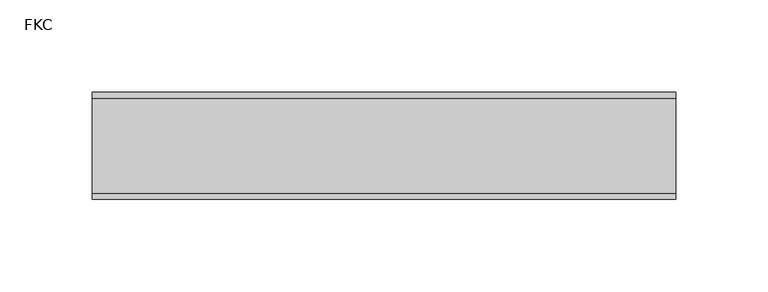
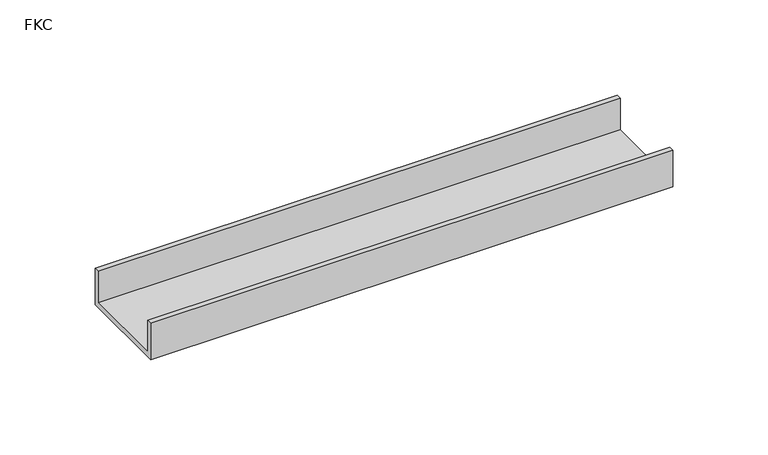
"""IFC4 building model written with IfcOpenShell, lengths in millimetres: proxy geometry, Frame-Teknion-Altos-Base_Channel : FKC."""

import ifcopenshell
import ifcopenshell.guid

model = None  # the IFC model being written
_history = None  # IfcOwnerHistory: only IFC2X3 demands one
_inside = {}  # id of a spatial element -> (the spatial element, [elements in it])
_under = {}  # id of a project, library or spatial element -> (it, [spatial elements below it])
_declared = {}  # id of a project -> (the project, [libraries it declares])
_typed = {}  # id of a type object -> (the type object, [elements of that type])
_made_of = {}  # id of a material, layer set ... -> (it, [elements and type objects made of it])


def new_model(schema):
    """Start an empty IFC model of exactly this schema.

    Asked for "IFC4X3", IfcOpenShell would pick the latest addendum, in which some entities
    have other attributes; the version numbers below select the first issue.
    IFC2X3 requires an IfcOwnerHistory on every rooted entity: one is made here for all.
    """
    global model, _history
    if schema == "IFC4X3":
        model = ifcopenshell.file(schema_version=(4, 3, 0, 0))
    else:
        model = ifcopenshell.file(schema=schema)
    _inside.clear()
    _under.clear()
    _declared.clear()
    _typed.clear()
    _made_of.clear()
    _history = None
    if model.schema == "IFC2X3":
        org = make("IfcOrganization", Name="unknown")
        user = make(
            "IfcPersonAndOrganization",
            ThePerson=make("IfcPerson", FamilyName="unknown"),
            TheOrganization=org,
        )
        app = make(
            "IfcApplication",
            ApplicationDeveloper=org,
            Version="unknown",
            ApplicationFullName="unknown",
            ApplicationIdentifier="unknown",
        )
        _history = make(
            "IfcOwnerHistory",
            OwningUser=user,
            OwningApplication=app,
            ChangeAction="ADDED",
            CreationDate=0,
        )
    return model


def make(cls, **values):
    """One entity of the class cls with the attributes given. An attribute that is None is left unset."""
    return model.create_entity(
        cls, **{name: value for name, value in values.items() if value is not None}
    )


def rooted(cls, **values):
    """An entity with a GlobalId (a new one), such as an element, a storey or a relation."""
    return make(cls, GlobalId=ifcopenshell.guid.new(), OwnerHistory=_history, **values)


def si_unit(unit_type, name, prefix=None):
    """IfcSIUnit, for example si_unit("LENGTHUNIT", "METRE", prefix="MILLI")."""
    return make("IfcSIUnit", UnitType=unit_type, Prefix=prefix, Name=name)


def assignment(units):
    """IfcUnitAssignment: the units of a project."""
    return None if units is None else make("IfcUnitAssignment", Units=units)


def point(xyz):
    """IfcCartesianPoint."""
    return None if xyz is None else make("IfcCartesianPoint", Coordinates=xyz)


def direction(xyz):
    """IfcDirection."""
    return None if xyz is None else make("IfcDirection", DirectionRatios=xyz)


def frame(location, z_axis=None, x_axis=None):
    """IfcAxis2Placement3D, a coordinate frame: its origin and axes. An axis left out is left unset."""
    return make(
        "IfcAxis2Placement3D",
        Location=point(location),
        Axis=direction(z_axis),
        RefDirection=direction(x_axis),
    )


def origin():
    """The frame at (0, 0, 0) with its axes left unset."""
    return frame((0.0, 0.0, 0.0))


def place(relative_to, where):
    """IfcLocalPlacement: puts the frame where relative to a parent placement (None: the world)."""
    return make(
        "IfcLocalPlacement", PlacementRelTo=relative_to, RelativePlacement=where
    )


def context(
    kind, dimensions, precision=None, world=None, true_north=None, identifier=None
):
    """IfcGeometricRepresentationContext, for example the 3D "Model" context."""
    return make(
        "IfcGeometricRepresentationContext",
        ContextIdentifier=identifier,
        ContextType=kind,
        CoordinateSpaceDimension=dimensions,
        Precision=precision,
        WorldCoordinateSystem=world,
        TrueNorth=true_north,
    )


def project(units=None, contexts=None):
    """IfcProject with its units and contexts."""
    return rooted(
        "IfcProject",
        Name="project",
        RepresentationContexts=contexts,
        UnitsInContext=assignment(units),
    )


def spatial(cls, under=None, at=None, **own):
    """A site, building, storey or space (cls), placed at a placement, below another one or the project."""
    s = rooted(cls, ObjectPlacement=at, **own)
    if under is not None:
        _under.setdefault(under.id(), (under, []))[1].append(s)
    return s


def polyline(points):
    """IfcPolyline through the points."""
    return make("IfcPolyline", Points=[point(p) for p in points])


def outline(outer, holes=None, kind="AREA"):
    """IfcArbitraryClosedProfileDef: a profile drawn as a closed curve; with holes, ...WithVoids."""
    if holes is None:
        return make("IfcArbitraryClosedProfileDef", ProfileType=kind, OuterCurve=outer)
    return make(
        "IfcArbitraryProfileDefWithVoids",
        ProfileType=kind,
        OuterCurve=outer,
        InnerCurves=holes,
    )


def extrude(swept, where, along, depth):
    """IfcExtrudedAreaSolid: the profile swept, set in the frame where, extruded along a direction by depth."""
    return make(
        "IfcExtrudedAreaSolid",
        SweptArea=swept,
        Position=where,
        ExtrudedDirection=direction(along),
        Depth=depth,
    )


def shape(context_of_items, identifier, shape_type, items):
    """IfcShapeRepresentation: the items that make up one representation, for example the "Body"."""
    return make(
        "IfcShapeRepresentation",
        ContextOfItems=context_of_items,
        RepresentationIdentifier=identifier,
        RepresentationType=shape_type,
        Items=items,
    )


def source(mapping_origin, context_of_items, identifier, shape_type, items):
    """IfcRepresentationMap: a shape defined once, which mapped items show again and again."""
    return make(
        "IfcRepresentationMap",
        MappingOrigin=mapping_origin,
        MappedRepresentation=shape(context_of_items, identifier, shape_type, items),
    )


def transform(
    local_origin,
    x_axis=None,
    y_axis=None,
    z_axis=None,
    scale=None,
    scale2=None,
    scale3=None,
    uniform=True,
):
    """IfcCartesianTransformationOperator3D, or its non-uniform kind. x_axis, y_axis, z_axis: its Axis1, 2, 3."""
    if uniform:
        return make(
            "IfcCartesianTransformationOperator3D",
            Axis1=direction(x_axis),
            Axis2=direction(y_axis),
            LocalOrigin=point(local_origin),
            Scale=scale,
            Axis3=direction(z_axis),
        )
    return make(
        "IfcCartesianTransformationOperator3DnonUniform",
        Axis1=direction(x_axis),
        Axis2=direction(y_axis),
        LocalOrigin=point(local_origin),
        Scale=scale,
        Axis3=direction(z_axis),
        Scale2=scale2,
        Scale3=scale3,
    )


def mapped(mapping_source, mapping_target):
    """IfcMappedItem: shows the shape of a source again, moved by a transform."""
    return make(
        "IfcMappedItem", MappingSource=mapping_source, MappingTarget=mapping_target
    )


def made_of(thing, what):
    """Note that an element or type object is made of a material, layer set ...; save() writes the relation."""
    if what is not None:
        _made_of.setdefault(what.id(), (what, []))[1].append(thing)
    return thing


def element(
    cls,
    number,
    at=None,
    inside=None,
    cuts=None,
    type_object=None,
    material=None,
    context=None,
    identifier="Body",
    shape_type=None,
    held_by="IfcProductDefinitionShape",
    body=None,
    shapes=None,
    **own,
):
    """One element of the class cls, such as IfcWall. Its Tag is "e" and its number.

    at: its placement. inside: the storey or other place that contains it. cuts: it is an
    opening in that element (IfcRelVoidsElement). A single representation is given by context,
    identifier, shape_type and body (its items); several are given by shapes. held_by: the class
    of the entity that holds the representations. save() writes the other relations.
    """
    e = rooted(cls, Tag="e%d" % number, ObjectPlacement=at, **own)
    if body is not None:
        shapes = [shape(context, identifier, shape_type, body)]
    if shapes is not None:
        e.Representation = make(held_by, Representations=shapes)
    if inside is not None:
        _inside.setdefault(inside.id(), (inside, []))[1].append(e)
    if cuts is not None:
        rooted(
            "IfcRelVoidsElement", RelatingBuildingElement=cuts, RelatedOpeningElement=e
        )
    if type_object is not None:
        _typed.setdefault(type_object.id(), (type_object, []))[1].append(e)
    return made_of(e, material)


def aggregate(whole, parts):
    """IfcRelAggregates: a whole, such as a stair, and the parts it consists of."""
    return rooted("IfcRelAggregates", RelatingObject=whole, RelatedObjects=parts)


def save(model, path):
    """Write the relations noted so far, then the file.

    IfcRelAggregates (storeys below a building ...), IfcRelContainedInSpatialStructure (elements
    in a storey), IfcRelDefinesByType, IfcRelAssociatesMaterial and IfcRelDeclares: one each for
    every whole, place, type object, material and project.
    """
    for whole, parts in _under.values():
        aggregate(whole, parts)
    for where, things in _inside.values():
        rooted(
            "IfcRelContainedInSpatialStructure",
            RelatedElements=things,
            RelatingStructure=where,
        )
    for kind, things in _typed.values():
        rooted("IfcRelDefinesByType", RelatedObjects=things, RelatingType=kind)
    for what, things in _made_of.values():
        rooted("IfcRelAssociatesMaterial", RelatedObjects=things, RelatingMaterial=what)
    for by, libraries in _declared.values():
        rooted("IfcRelDeclares", RelatingContext=by, RelatedDefinitions=libraries)
    model.write(path)


def fkc_e36d1c91(model_context):
    return source(origin(), model_context, "Body", "SweptSolid", [
        extrude(outline(polyline([(29.0214844, 23.3164062), (29.0214844, 0.0), (-29.0214844, 0.0), (-29.0214844, 23.3164062), (-25.8464844, 23.3164062), (-25.8464844, 3.175), (25.8464844, 3.175), (25.8464844, 23.3164062), (29.0214844, 23.3164062)])), frame((-158.1050781, 0.0, 0.0), z_axis=(1.0, 0.0, 0.0), x_axis=(0.0, 1.0, 0.0)), (0.0, 0.0, 1.0), 316.2101563),
    ])


if __name__ == "__main__":
    model = new_model("IFC4")
    model_context = context("Model", 3, world=origin())
    ifc_project = project(units=[si_unit("LENGTHUNIT", "METRE", prefix="MILLI")], contexts=[model_context])
    site = spatial("IfcSite", under=ifc_project)
    building = spatial("IfcBuilding", under=site)
    placement = place(None, origin())
    fkc_shape = fkc_e36d1c91(model_context)
    element("IfcBuildingElementProxy", 1, Name="Frame-Teknion-Altos-Base_Channel : FKC", ObjectType="Frame-Teknion-Altos-Base_Channel : FKC", at=placement, inside=building, context=model_context, shape_type="MappedRepresentation", body=[
        mapped(fkc_shape, transform((0.0, 0.0, 0.0), x_axis=(1.0, 0.0, 0.0), y_axis=(0.0, 1.0, 0.0), z_axis=(0.0, 0.0, 1.0))),
    ])
    save(model, "model.ifc")
